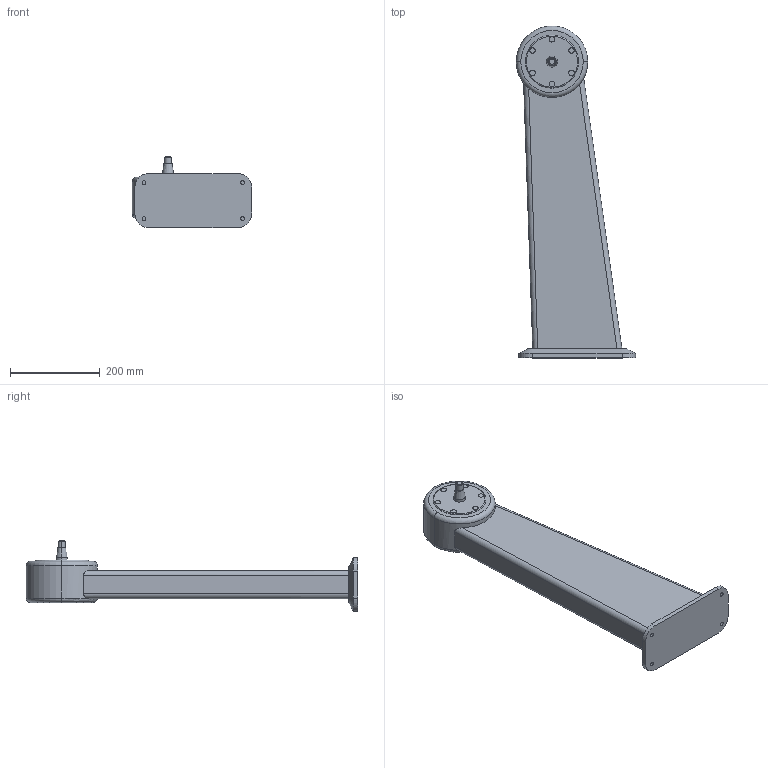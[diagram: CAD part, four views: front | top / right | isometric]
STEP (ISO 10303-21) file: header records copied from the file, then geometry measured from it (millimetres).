
FILE_DESCRIPTION (( 'STEP AP214' ), '1' );
FILE_NAME ('WP700_H660_+05.STEP', '2014-08-14T09:48:52', ( '' ), ( '' ), 'SwSTEP 2.0', 'SolidWorks 2014', '' );
FILE_SCHEMA (( 'AUTOMOTIVE_DESIGN' ));
Length unit declared in the file: millimetre
Products named in the file (1): WP700_H660_+05
Bounding box: 265.95 x 739.5 x 158.3 mm (x, y, z)
Volume: 8336692.6 mm3; surface area: 389149.3 mm2
Topology: 1 solids, 1 shells, 79 faces, 171 edges, 108 vertices
Faces by surface type: cylinder 36, plane 29, cone 8, torus 6
Entity records: 2290 total; most frequent: CARTESIAN_POINT 471, DIRECTION 408, ORIENTED_EDGE 342, EDGE_CURVE 171, AXIS2_PLACEMENT_3D 167, VERTEX_POINT 108, EDGE_LOOP 93, CIRCLE 87
